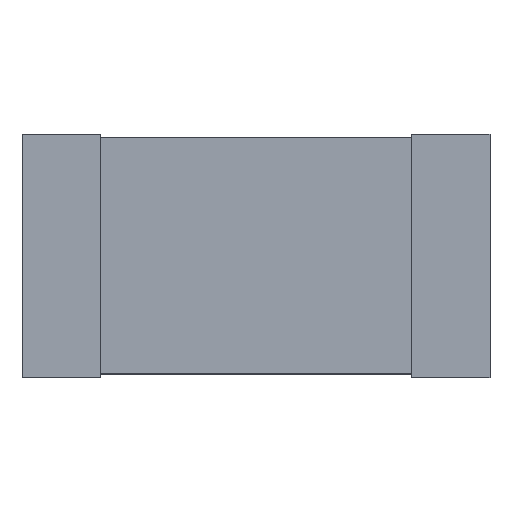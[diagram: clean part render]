
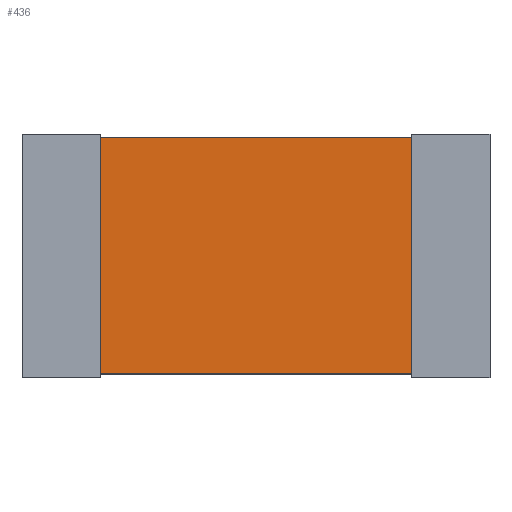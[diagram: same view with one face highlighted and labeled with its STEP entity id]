
A CAD part, top view. The second image highlights one B-rep face of the part: STEP entity #436.
In plain terms, the highlighted planar face has unit normal (0, 0, 1).
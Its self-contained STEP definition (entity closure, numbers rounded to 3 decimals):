
#212=CARTESIAN_POINT('',(1.753,-1.332,0.52));
#211=VERTEX_POINT('',#212);
#222=CARTESIAN_POINT('',(-1.753,-1.332,0.52));
#221=VERTEX_POINT('',#222);
#220=EDGE_CURVE('',#221,#211,#225,.T.);
#225=LINE('',#222,#227);
#227=VECTOR('',#228,3.505);
#228=DIRECTION('',(1.0,0.0,0.0));
#261=CARTESIAN_POINT('',(1.753,1.332,0.52));
#260=VERTEX_POINT('',#261);
#269=EDGE_CURVE('',#211,#260,#274,.T.);
#274=LINE('',#212,#276);
#276=VECTOR('',#277,2.665);
#277=DIRECTION('',(0.0,1.0,0.0));
#310=CARTESIAN_POINT('',(-1.753,1.332,0.52));
#309=VERTEX_POINT('',#310);
#318=EDGE_CURVE('',#260,#309,#323,.T.);
#323=LINE('',#261,#325);
#325=VECTOR('',#326,3.505);
#326=DIRECTION('',(-1.0,0.0,0.0));
#367=EDGE_CURVE('',#309,#221,#372,.T.);
#372=LINE('',#310,#374);
#374=VECTOR('',#375,2.665);
#375=DIRECTION('',(0.0,-1.0,0.0));
#436=ADVANCED_FACE('',(#442),#437,.T.);
#437=PLANE('',#438);
#438=AXIS2_PLACEMENT_3D('',#439,#440,#441);
#439=CARTESIAN_POINT('',(-1.753,-1.332,0.52));
#440=DIRECTION('',(0.0,0.0,1.0));
#441=DIRECTION('',(0.,1.,0.));
#442=FACE_OUTER_BOUND('',#443,.T.);
#443=EDGE_LOOP('',(#444,#454,#464,#474));
#444=ORIENTED_EDGE('',*,*,#220,.T.);
#454=ORIENTED_EDGE('',*,*,#269,.T.);
#464=ORIENTED_EDGE('',*,*,#318,.T.);
#474=ORIENTED_EDGE('',*,*,#367,.T.);
